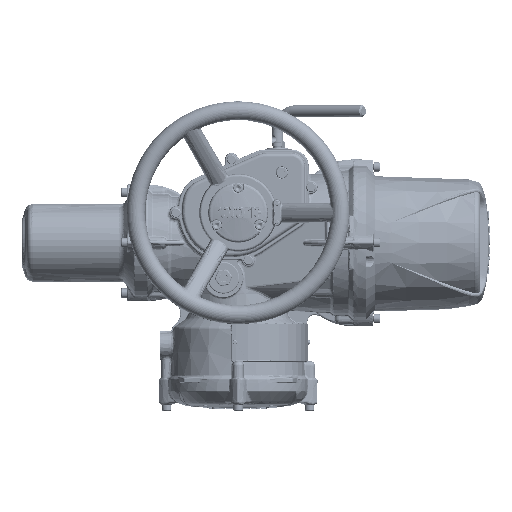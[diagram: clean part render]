
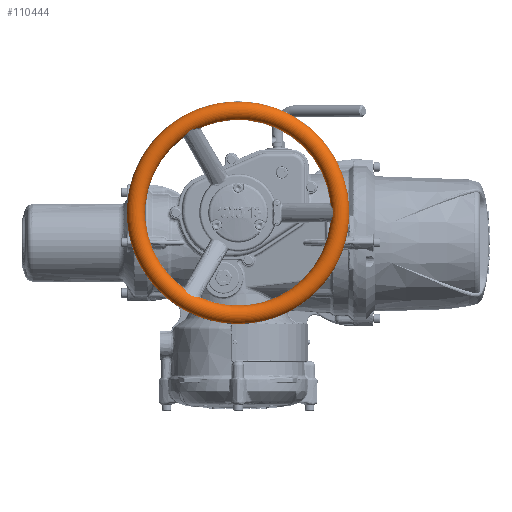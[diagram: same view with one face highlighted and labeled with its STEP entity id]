
A CAD part, top view. The second image highlights one B-rep face of the part: STEP entity #110444.
In plain terms, the highlighted toroidal (fillet/blend) face has major radius 140 mm and minor radius 12.5 mm.
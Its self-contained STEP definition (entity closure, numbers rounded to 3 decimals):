
#3321=TOROIDAL_SURFACE('',#116413,140.,12.5);
#12387=B_SPLINE_CURVE_WITH_KNOTS('',3,(#188634,#188635,#188636,#188637,
#188638,#188639,#188640),.UNSPECIFIED.,.F.,.F.,(4,1,1,1,4),(0.,0.004,
0.007,0.011,0.014),
 .UNSPECIFIED.);
#12388=B_SPLINE_CURVE_WITH_KNOTS('',3,(#188642,#188643,#188644,#188645),
 .UNSPECIFIED.,.F.,.F.,(4,4),(0.,0.006),.UNSPECIFIED.);
#12389=B_SPLINE_CURVE_WITH_KNOTS('',3,(#188647,#188648,#188649,#188650,
#188651,#188652,#188653),.UNSPECIFIED.,.F.,.F.,(4,1,1,1,4),(0.,0.004,
0.007,0.011,0.014),.UNSPECIFIED.);
#12390=B_SPLINE_CURVE_WITH_KNOTS('',3,(#188654,#188655,#188656,#188657,
#188658,#188659,#188660),.UNSPECIFIED.,.F.,.F.,(4,1,1,1,4),(0.,0.004,
0.007,0.011,0.014),
 .UNSPECIFIED.);
#12391=B_SPLINE_CURVE_WITH_KNOTS('',3,(#188662,#188663,#188664,#188665),
 .UNSPECIFIED.,.F.,.F.,(4,4),(0.,0.006),.UNSPECIFIED.);
#12392=B_SPLINE_CURVE_WITH_KNOTS('',3,(#188667,#188668,#188669,#188670,
#188671,#188672,#188673),.UNSPECIFIED.,.F.,.F.,(4,1,1,1,4),(0.,0.004,
0.007,0.011,0.014),.UNSPECIFIED.);
#12393=B_SPLINE_CURVE_WITH_KNOTS('',3,(#188674,#188675,#188676,#188677,
#188678,#188679,#188680),.UNSPECIFIED.,.F.,.F.,(4,1,1,1,4),(0.,0.004,
0.007,0.011,0.014),
 .UNSPECIFIED.);
#12394=B_SPLINE_CURVE_WITH_KNOTS('',3,(#188682,#188683,#188684,#188685),
 .UNSPECIFIED.,.F.,.F.,(4,4),(0.,0.006),
 .UNSPECIFIED.);
#12395=B_SPLINE_CURVE_WITH_KNOTS('',3,(#188687,#188688,#188689,#188690,
#188691,#188692,#188693),.UNSPECIFIED.,.F.,.F.,(4,1,1,1,4),(0.,0.004,
0.007,0.011,0.014),
 .UNSPECIFIED.);
#23928=ORIENTED_EDGE('',*,*,#43895,.T.);
#23929=ORIENTED_EDGE('',*,*,#43896,.T.);
#23930=ORIENTED_EDGE('',*,*,#43897,.T.);
#23931=ORIENTED_EDGE('',*,*,#43739,.F.);
#23932=ORIENTED_EDGE('',*,*,#43898,.T.);
#23933=ORIENTED_EDGE('',*,*,#43899,.T.);
#23934=ORIENTED_EDGE('',*,*,#43900,.T.);
#23935=ORIENTED_EDGE('',*,*,#43758,.F.);
#23936=ORIENTED_EDGE('',*,*,#43901,.T.);
#23937=ORIENTED_EDGE('',*,*,#43902,.T.);
#23938=ORIENTED_EDGE('',*,*,#43903,.T.);
#23939=ORIENTED_EDGE('',*,*,#43745,.F.);
#23940=ORIENTED_EDGE('',*,*,#43803,.T.);
#43739=EDGE_CURVE('',#54066,#54067,#60304,.T.);
#43745=EDGE_CURVE('',#54072,#54073,#60306,.T.);
#43758=EDGE_CURVE('',#54084,#54085,#60309,.T.);
#43803=EDGE_CURVE('',#54119,#54119,#60314,.T.);
#43895=EDGE_CURVE('',#54072,#54184,#12387,.T.);
#43896=EDGE_CURVE('',#54184,#54185,#12388,.T.);
#43897=EDGE_CURVE('',#54185,#54067,#12389,.T.);
#43898=EDGE_CURVE('',#54066,#54186,#12390,.T.);
#43899=EDGE_CURVE('',#54186,#54187,#12391,.T.);
#43900=EDGE_CURVE('',#54187,#54085,#12392,.T.);
#43901=EDGE_CURVE('',#54084,#54188,#12393,.T.);
#43902=EDGE_CURVE('',#54188,#54189,#12394,.T.);
#43903=EDGE_CURVE('',#54189,#54073,#12395,.T.);
#54066=VERTEX_POINT('',#187375);
#54067=VERTEX_POINT('',#187376);
#54072=VERTEX_POINT('',#187402);
#54073=VERTEX_POINT('',#187403);
#54084=VERTEX_POINT('',#187464);
#54085=VERTEX_POINT('',#187465);
#54119=VERTEX_POINT('',#187785);
#54184=VERTEX_POINT('',#188641);
#54185=VERTEX_POINT('',#188646);
#54186=VERTEX_POINT('',#188661);
#54187=VERTEX_POINT('',#188666);
#54188=VERTEX_POINT('',#188681);
#54189=VERTEX_POINT('',#188686);
#60304=CIRCLE('',#116366,127.508);
#60306=CIRCLE('',#116369,127.508);
#60309=CIRCLE('',#116374,127.508);
#60314=CIRCLE('',#116389,152.492);
#64768=EDGE_LOOP('',(#23928,#23929,#23930,#23931,#23932,#23933,#23934,#23935,
#23936,#23937,#23938,#23939));
#64769=EDGE_LOOP('',(#23940));
#70514=FACE_BOUND('',#64768,.T.);
#70515=FACE_BOUND('',#64769,.T.);
#110444=ADVANCED_FACE('',(#70514,#70515),#3321,.T.);
#116366=AXIS2_PLACEMENT_3D('',#187374,#127020,#127021);
#116369=AXIS2_PLACEMENT_3D('',#187401,#127026,#127027);
#116374=AXIS2_PLACEMENT_3D('',#187463,#127036,#127037);
#116389=AXIS2_PLACEMENT_3D('',#187784,#127066,#127067);
#116413=AXIS2_PLACEMENT_3D('',#188633,#127116,#127117);
#127020=DIRECTION('',(0.,0.,1.));
#127021=DIRECTION('',(0.,1.,0.));
#127026=DIRECTION('',(0.,0.,1.));
#127027=DIRECTION('',(0.,1.,0.));
#127036=DIRECTION('',(0.,0.,1.));
#127037=DIRECTION('',(0.,1.,0.));
#127066=DIRECTION('',(0.,0.,1.));
#127067=DIRECTION('',(0.,1.,0.));
#127116=DIRECTION('',(0.,0.,1.));
#127117=DIRECTION('',(0.,1.,0.));
#187374=CARTESIAN_POINT('',(0.,0.,
92.936));
#187375=CARTESIAN_POINT('',(-102.887,-75.316,92.936));
#187376=CARTESIAN_POINT('',(102.887,-75.316,92.936));
#187401=CARTESIAN_POINT('',(0.,0.,
92.936));
#187402=CARTESIAN_POINT('',(116.669,-51.445,92.936));
#187403=CARTESIAN_POINT('',(13.782,126.761,92.936));
#187463=CARTESIAN_POINT('',(0.,0.,
92.936));
#187464=CARTESIAN_POINT('',(-13.782,126.761,92.936));
#187465=CARTESIAN_POINT('',(-116.669,-51.445,92.936));
#187784=CARTESIAN_POINT('',(0.,0.,
92.936));
#187785=CARTESIAN_POINT('',(0.,152.492,92.936));
#188633=CARTESIAN_POINT('',(0.,0.,
92.5));
#188634=CARTESIAN_POINT('',(116.669,-51.445,92.936));
#188635=CARTESIAN_POINT('',(116.43,-52.071,93.913));
#188636=CARTESIAN_POINT('',(116.062,-53.574,95.664));
#188637=CARTESIAN_POINT('',(115.677,-56.313,97.884));
#188638=CARTESIAN_POINT('',(115.339,-59.329,99.649));
#188639=CARTESIAN_POINT('',(114.858,-61.572,100.403));
#188640=CARTESIAN_POINT('',(114.312,-62.627,100.438));
#188641=CARTESIAN_POINT('',(114.312,-62.627,100.438));
#188642=CARTESIAN_POINT('',(114.312,-62.627,100.438));
#188643=CARTESIAN_POINT('',(113.418,-64.357,100.494));
#188644=CARTESIAN_POINT('',(112.444,-66.044,100.494));
#188645=CARTESIAN_POINT('',(111.393,-67.684,100.438));
#188646=CARTESIAN_POINT('',(111.393,-67.684,100.438));
#188647=CARTESIAN_POINT('',(111.393,-67.684,100.438));
#188648=CARTESIAN_POINT('',(110.749,-68.688,100.403));
#188649=CARTESIAN_POINT('',(109.053,-70.218,99.652));
#188650=CARTESIAN_POINT('',(106.596,-72.031,97.873));
#188651=CARTESIAN_POINT('',(104.449,-73.708,95.69));
#188652=CARTESIAN_POINT('',(103.31,-74.795,93.913));
#188653=CARTESIAN_POINT('',(102.887,-75.316,92.936));
#188654=CARTESIAN_POINT('',(-102.887,-75.316,92.936));
#188655=CARTESIAN_POINT('',(-103.31,-74.796,93.913));
#188656=CARTESIAN_POINT('',(-104.427,-73.726,95.664));
#188657=CARTESIAN_POINT('',(-106.607,-72.023,97.884));
#188658=CARTESIAN_POINT('',(-109.05,-70.222,99.649));
#188659=CARTESIAN_POINT('',(-110.752,-68.684,100.403));
#188660=CARTESIAN_POINT('',(-111.393,-67.684,100.438));
#188661=CARTESIAN_POINT('',(-111.393,-67.684,100.438));
#188662=CARTESIAN_POINT('',(-111.393,-67.684,100.438));
#188663=CARTESIAN_POINT('',(-112.444,-66.044,100.494));
#188664=CARTESIAN_POINT('',(-113.418,-64.357,100.494));
#188665=CARTESIAN_POINT('',(-114.312,-62.627,100.438));
#188666=CARTESIAN_POINT('',(-114.312,-62.627,100.438));
#188667=CARTESIAN_POINT('',(-114.312,-62.627,100.438));
#188668=CARTESIAN_POINT('',(-114.86,-61.567,100.403));
#188669=CARTESIAN_POINT('',(-115.337,-59.334,99.652));
#188670=CARTESIAN_POINT('',(-115.679,-56.299,97.873));
#188671=CARTESIAN_POINT('',(-116.057,-53.602,95.69));
#188672=CARTESIAN_POINT('',(-116.43,-52.071,93.913));
#188673=CARTESIAN_POINT('',(-116.669,-51.445,92.936));
#188674=CARTESIAN_POINT('',(-13.782,126.761,92.936));
#188675=CARTESIAN_POINT('',(-13.12,126.867,93.913));
#188676=CARTESIAN_POINT('',(-11.635,127.3,95.664));
#188677=CARTESIAN_POINT('',(-9.07,128.335,97.884));
#188678=CARTESIAN_POINT('',(-6.289,129.551,99.649));
#188679=CARTESIAN_POINT('',(-4.106,130.256,100.403));
#188680=CARTESIAN_POINT('',(-2.919,130.311,100.438));
#188681=CARTESIAN_POINT('',(-2.919,130.311,100.438));
#188682=CARTESIAN_POINT('',(-2.919,130.311,100.438));
#188683=CARTESIAN_POINT('',(-0.974,130.401,100.494));
#188684=CARTESIAN_POINT('',(0.974,130.401,100.494));
#188685=CARTESIAN_POINT('',(2.919,130.311,100.438));
#188686=CARTESIAN_POINT('',(2.919,130.311,100.438));
#188687=CARTESIAN_POINT('',(2.919,130.311,100.438));
#188688=CARTESIAN_POINT('',(4.111,130.256,100.403));
#188689=CARTESIAN_POINT('',(6.284,129.552,99.652));
#188690=CARTESIAN_POINT('',(9.083,128.331,97.873));
#188691=CARTESIAN_POINT('',(11.608,127.309,95.69));
#188692=CARTESIAN_POINT('',(13.12,126.867,93.913));
#188693=CARTESIAN_POINT('',(13.782,126.761,92.936));
